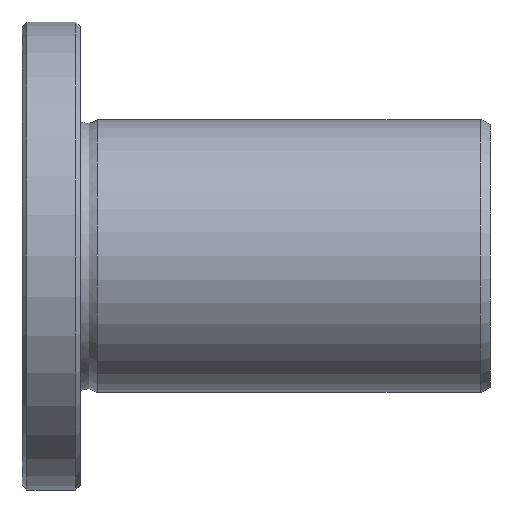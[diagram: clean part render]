
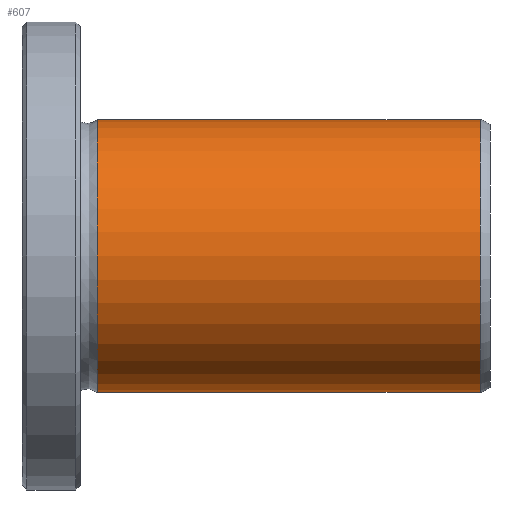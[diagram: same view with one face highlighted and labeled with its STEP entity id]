
A CAD part, front view. The second image highlights one B-rep face of the part: STEP entity #607.
In plain terms, the highlighted cylindrical face has radius 14 mm (diameter 28 mm), a full revolution.
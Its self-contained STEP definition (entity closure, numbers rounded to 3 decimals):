
#573=CARTESIAN_POINT('',(46.999,0.0,14.));
#574=VERTEX_POINT('',#573);
#575=CARTESIAN_POINT('',(46.999,0.0,0.0));
#576=DIRECTION('',(-1.0,0.0,0.0));
#577=DIRECTION('',(0.0,0.0,1.0));
#578=AXIS2_PLACEMENT_3D('',#575,#576,#577);
#579=CIRCLE('',#578,14.);
#580=EDGE_CURVE('',#574,#574,#579,.T.);
#588=CARTESIAN_POINT('',(27.359,0.0,0.0));
#589=DIRECTION('',(-1.0,0.0,0.0));
#590=DIRECTION('',(0.0,0.0,1.0));
#591=AXIS2_PLACEMENT_3D('',#588,#589,#590);
#592=CYLINDRICAL_SURFACE('',#591,14.);
#593=CARTESIAN_POINT('',(7.72,0.0,14.));
#594=VERTEX_POINT('',#593);
#595=CARTESIAN_POINT('',(7.72,0.0,0.0));
#596=DIRECTION('',(-1.0,0.0,0.0));
#597=DIRECTION('',(0.0,0.0,1.0));
#598=AXIS2_PLACEMENT_3D('',#595,#596,#597);
#599=CIRCLE('',#598,14.);
#600=EDGE_CURVE('',#594,#594,#599,.T.);
#601=ORIENTED_EDGE('',*,*,#600,.F.);
#602=EDGE_LOOP('',(#601));
#603=FACE_OUTER_BOUND('',#602,.T.);
#604=ORIENTED_EDGE('',*,*,#580,.T.);
#605=EDGE_LOOP('',(#604));
#606=FACE_BOUND('',#605,.T.);
#607=ADVANCED_FACE('',(#603,#606),#592,.T.);
